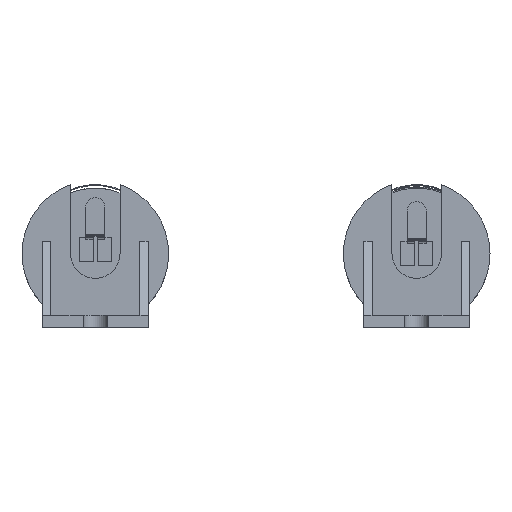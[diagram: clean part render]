
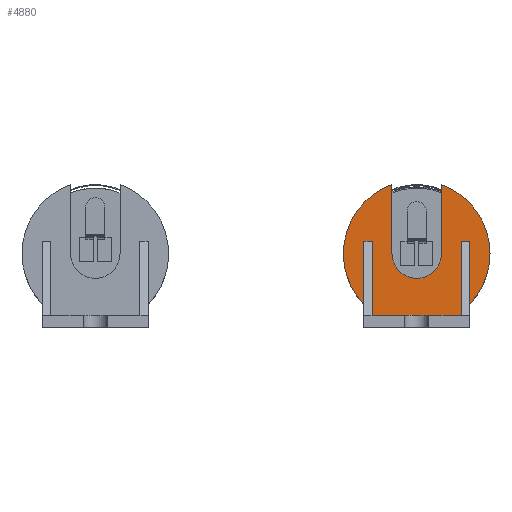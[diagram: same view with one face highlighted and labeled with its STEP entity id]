
A CAD part, left-side view. The second image highlights one B-rep face of the part: STEP entity #4880.
In plain terms, the highlighted free-form (B-spline) face has degree [3, 3] with [4, 4] control points.
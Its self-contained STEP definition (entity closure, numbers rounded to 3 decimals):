
#1317=DIRECTION('',(0.,0.,1.));
#1318=VECTOR('',#1317,17.183);
#1319=CARTESIAN_POINT('',(4.4,6.15,18.388));
#1320=LINE('',#1319,#1318);
#1355=DIRECTION('',(0.,0.,-1.));
#1356=VECTOR('',#1355,17.183);
#1357=CARTESIAN_POINT('',(4.4,-6.15,35.57));
#1358=LINE('',#1357,#1356);
#1432=DIRECTION('',(0.,0.,-1.));
#1433=VECTOR('',#1432,15.767);
#1434=CARTESIAN_POINT('',(4.4,13.15,21.5));
#1435=LINE('',#1434,#1433);
#1444=CARTESIAN_POINT('',(4.4,0.,18.388));
#1445=DIRECTION('',(-1.,0.,0.));
#1446=DIRECTION('',(0.,1.,0.));
#1447=AXIS2_PLACEMENT_3D('',#1444,#1445,#1446);
#1449=CARTESIAN_POINT('',(4.4,0.,18.388));
#1450=DIRECTION('',(1.,0.,0.));
#1451=DIRECTION('',(0.,-0.337,0.942));
#1452=AXIS2_PLACEMENT_3D('',#1449,#1450,#1451);
#1454=CARTESIAN_POINT('',(4.4,0.,18.388));
#1455=DIRECTION('',(1.,0.,0.));
#1456=DIRECTION('',(0.,-1.,0.));
#1457=AXIS2_PLACEMENT_3D('',#1454,#1455,#1456);
#1459=CARTESIAN_POINT('',(4.4,0.,18.388));
#1460=DIRECTION('',(1.,0.,0.));
#1461=DIRECTION('',(0.,0.721,-0.693));
#1462=AXIS2_PLACEMENT_3D('',#1459,#1460,#1461);
#1464=CARTESIAN_POINT('',(4.4,0.,18.388));
#1465=DIRECTION('',(1.,0.,0.));
#1466=DIRECTION('',(0.,1.,0.));
#1467=AXIS2_PLACEMENT_3D('',#1464,#1465,#1466);
#1477=DIRECTION('',(0.,0.,-1.));
#1478=VECTOR('',#1477,15.767);
#1479=CARTESIAN_POINT('',(4.4,-13.15,21.5));
#1480=LINE('',#1479,#1478);
#1539=DIRECTION('',(0.,1.,0.));
#1540=VECTOR('',#1539,22.1);
#1541=CARTESIAN_POINT('',(4.4,-11.05,3.));
#1542=LINE('',#1541,#1540);
#1543=DIRECTION('',(0.,1.,0.));
#1544=VECTOR('',#1543,2.1);
#1545=CARTESIAN_POINT('',(4.4,11.05,21.5));
#1546=LINE('',#1545,#1544);
#1551=DIRECTION('',(0.,0.,-1.));
#1552=VECTOR('',#1551,18.5);
#1553=CARTESIAN_POINT('',(4.4,11.05,21.5));
#1554=LINE('',#1553,#1552);
#1563=DIRECTION('',(0.,0.,1.));
#1564=VECTOR('',#1563,18.5);
#1565=CARTESIAN_POINT('',(4.4,-11.05,3.));
#1566=LINE('',#1565,#1564);
#1567=DIRECTION('',(0.,1.,0.));
#1568=VECTOR('',#1567,2.1);
#1569=CARTESIAN_POINT('',(4.4,-13.15,21.5));
#1570=LINE('',#1569,#1568);
#1854=CARTESIAN_POINT('',(4.4,6.15,18.388));
#1855=CARTESIAN_POINT('',(4.4,6.15,35.57));
#1856=VERTEX_POINT('',#1854);
#1857=VERTEX_POINT('',#1855);
#1858=CARTESIAN_POINT('',(4.4,18.25,18.388));
#1859=VERTEX_POINT('',#1858);
#1860=CARTESIAN_POINT('',(4.4,13.15,5.733));
#1861=VERTEX_POINT('',#1860);
#1862=CARTESIAN_POINT('',(4.4,13.15,21.5));
#1863=VERTEX_POINT('',#1862);
#1864=CARTESIAN_POINT('',(4.4,11.05,21.5));
#1865=VERTEX_POINT('',#1864);
#1866=CARTESIAN_POINT('',(4.4,11.05,3.));
#1867=VERTEX_POINT('',#1866);
#1868=CARTESIAN_POINT('',(4.4,-11.05,3.));
#1869=VERTEX_POINT('',#1868);
#1870=CARTESIAN_POINT('',(4.4,-11.05,21.5));
#1871=VERTEX_POINT('',#1870);
#1872=CARTESIAN_POINT('',(4.4,-13.15,21.5));
#1873=VERTEX_POINT('',#1872);
#1874=CARTESIAN_POINT('',(4.4,-13.15,5.733));
#1875=VERTEX_POINT('',#1874);
#1876=CARTESIAN_POINT('',(4.4,-18.25,18.388));
#1877=VERTEX_POINT('',#1876);
#1878=CARTESIAN_POINT('',(4.4,-6.15,35.57));
#1879=VERTEX_POINT('',#1878);
#1880=CARTESIAN_POINT('',(4.4,-6.15,18.388));
#1881=VERTEX_POINT('',#1880);
#4838=CARTESIAN_POINT('',(4.4,-18.98,2.349));
#4839=CARTESIAN_POINT('',(4.4,-18.98,13.64));
#4840=CARTESIAN_POINT('',(4.4,-18.98,24.931));
#4841=CARTESIAN_POINT('',(4.4,-18.98,36.222));
#4842=CARTESIAN_POINT('',(4.4,-6.327,2.349));
#4843=CARTESIAN_POINT('',(4.4,-6.327,13.64));
#4844=CARTESIAN_POINT('',(4.4,-6.327,24.931));
#4845=CARTESIAN_POINT('',(4.4,-6.327,36.222));
#4846=CARTESIAN_POINT('',(4.4,6.327,2.349));
#4847=CARTESIAN_POINT('',(4.4,6.327,13.64));
#4848=CARTESIAN_POINT('',(4.4,6.327,24.931));
#4849=CARTESIAN_POINT('',(4.4,6.327,36.222));
#4850=CARTESIAN_POINT('',(4.4,18.98,2.349));
#4851=CARTESIAN_POINT('',(4.4,18.98,13.64));
#4852=CARTESIAN_POINT('',(4.4,18.98,24.931));
#4853=CARTESIAN_POINT('',(4.4,18.98,36.222));
#4854=B_SPLINE_SURFACE_WITH_KNOTS('',3,3,((#4838,#4839,#4840,#4841),(#4842,
#4843,#4844,#4845),(#4846,#4847,#4848,#4849),(#4850,#4851,#4852,#4853)),
.UNSPECIFIED.,.F.,.F.,.F.,(4,4),(4,4),(-18.98,18.98),(-16.039,
17.834),.UNSPECIFIED.);
#4855=ORIENTED_EDGE('',*,*,#4516,.F.);
#4857=ORIENTED_EDGE('',*,*,#4856,.T.);
#4858=ORIENTED_EDGE('',*,*,#4602,.F.);
#4859=ORIENTED_EDGE('',*,*,#4640,.T.);
#4860=ORIENTED_EDGE('',*,*,#4638,.T.);
#4862=ORIENTED_EDGE('',*,*,#4861,.F.);
#4864=ORIENTED_EDGE('',*,*,#4863,.T.);
#4866=ORIENTED_EDGE('',*,*,#4865,.F.);
#4868=ORIENTED_EDGE('',*,*,#4867,.T.);
#4870=ORIENTED_EDGE('',*,*,#4869,.F.);
#4872=ORIENTED_EDGE('',*,*,#4871,.T.);
#4873=ORIENTED_EDGE('',*,*,#4825,.T.);
#4875=ORIENTED_EDGE('',*,*,#4874,.T.);
#4877=ORIENTED_EDGE('',*,*,#4876,.T.);
#4878=EDGE_LOOP('',(#4855,#4857,#4858,#4859,#4860,#4862,#4864,#4866,#4868,#4870,
#4872,#4873,#4875,#4877));
#4879=FACE_OUTER_BOUND('',#4878,.F.);
#1448=CIRCLE('',#1447,6.15);
#1453=CIRCLE('',#1452,18.25);
#1458=CIRCLE('',#1457,18.25);
#1463=CIRCLE('',#1462,18.25);
#1468=CIRCLE('',#1467,18.25);
#4516=EDGE_CURVE('',#1856,#1857,#1320,.T.);
#4602=EDGE_CURVE('',#1879,#1881,#1358,.T.);
#4638=EDGE_CURVE('',#1877,#1875,#1458,.T.);
#4640=EDGE_CURVE('',#1879,#1877,#1453,.T.);
#4825=EDGE_CURVE('',#1863,#1861,#1435,.T.);
#4856=EDGE_CURVE('',#1856,#1881,#1448,.T.);
#4861=EDGE_CURVE('',#1873,#1875,#1480,.T.);
#4863=EDGE_CURVE('',#1873,#1871,#1570,.T.);
#4865=EDGE_CURVE('',#1869,#1871,#1566,.T.);
#4867=EDGE_CURVE('',#1869,#1867,#1542,.T.);
#4869=EDGE_CURVE('',#1865,#1867,#1554,.T.);
#4871=EDGE_CURVE('',#1865,#1863,#1546,.T.);
#4874=EDGE_CURVE('',#1861,#1859,#1463,.T.);
#4876=EDGE_CURVE('',#1859,#1857,#1468,.T.);
#4880=ADVANCED_FACE('',(#4879),#4854,.F.);
